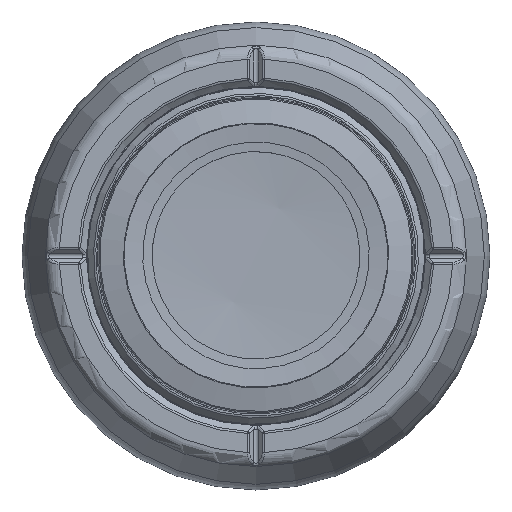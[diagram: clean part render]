
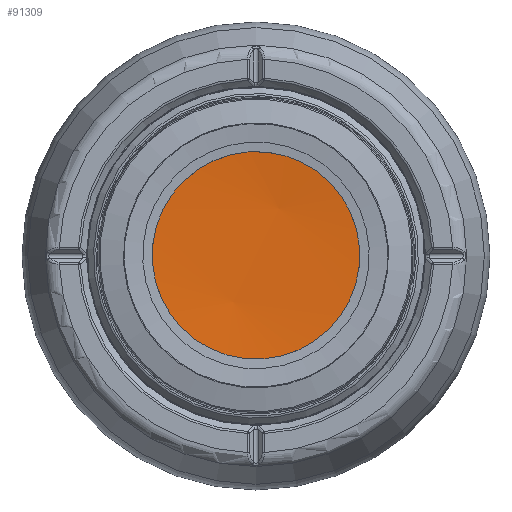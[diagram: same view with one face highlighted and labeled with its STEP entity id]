
A CAD part, top view. The second image highlights one B-rep face of the part: STEP entity #91309.
In plain terms, the highlighted spherical face has radius 143.2 mm.
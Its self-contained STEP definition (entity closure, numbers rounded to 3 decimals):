
#1002=SPHERICAL_SURFACE('',#97086,143.2);
#8246=FACE_OUTER_BOUND('',#13530,.T.);
#13530=EDGE_LOOP('',(#59769));
#32211=CIRCLE('',#97087,13.754);
#36315=VERTEX_POINT('',#132766);
#45104=EDGE_CURVE('',#36315,#36315,#32211,.T.);
#59769=ORIENTED_EDGE('',*,*,#45104,.T.);
#91309=ADVANCED_FACE('',(#8246),#1002,.F.);
#97086=AXIS2_PLACEMENT_3D('',#132765,#106658,#106659);
#97087=AXIS2_PLACEMENT_3D('',#132767,#106660,#106661);
#106658=DIRECTION('center_axis',(0.898,-0.441,0.));
#106659=DIRECTION('ref_axis',(0.441,0.898,0.));
#106660=DIRECTION('center_axis',(0.,0.,
1.));
#106661=DIRECTION('ref_axis',(0.441,0.898,0.));
#132765=CARTESIAN_POINT('Origin',(0.,0.,
183.125));
#132766=CARTESIAN_POINT('',(6.065,12.345,40.587));
#132767=CARTESIAN_POINT('Origin',(0.,0.,
40.587));
